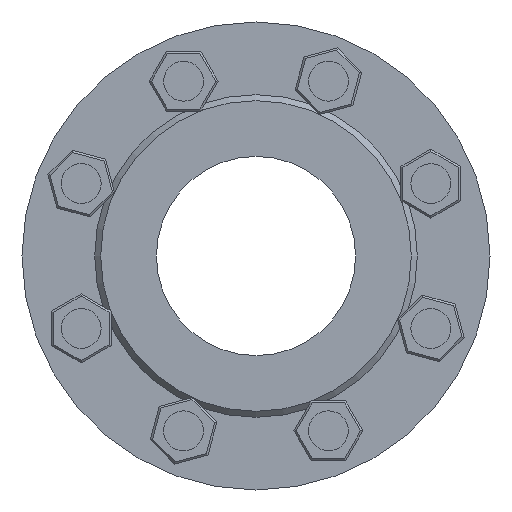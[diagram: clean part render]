
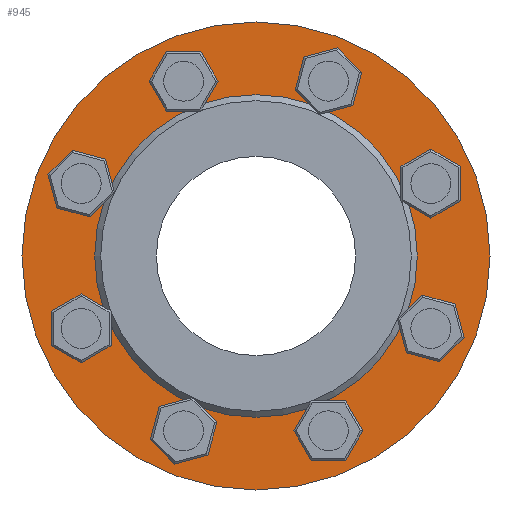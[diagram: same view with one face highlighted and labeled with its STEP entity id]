
A CAD part, left-side view. The second image highlights one B-rep face of the part: STEP entity #945.
In plain terms, the highlighted planar face has unit normal (-1, 0, 0).
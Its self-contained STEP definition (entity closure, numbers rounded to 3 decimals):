
#381 = AXIS2_PLACEMENT_3D ( 'NONE', #11582, #11704, #14217 ) ;
#495 = EDGE_LOOP ( 'NONE', ( #14276 ) ) ;
#606 = DIRECTION ( 'NONE',  ( -1., 0., 0. ) ) ;
#760 = AXIS2_PLACEMENT_3D ( 'NONE', #903, #2397, #10029 ) ;
#900 = FACE_BOUND ( 'NONE', #24164, .T. ) ;
#903 = CARTESIAN_POINT ( 'NONE',  ( 3., -87.769, 36.355 ) ) ;
#910 = VERTEX_POINT ( 'NONE', #23817 ) ;
#945 = ADVANCED_FACE ( 'NONE', ( #10152, #8652, #14166, #12273, #10395, #19664, #18040, #2522, #900, #17789 ), #23547, .F. ) ;
#984 = EDGE_LOOP ( 'NONE', ( #3372 ) ) ;
#1131 = EDGE_CURVE ( 'NONE', #11425, #11425, #2301, .T. ) ;
#1328 = EDGE_LOOP ( 'NONE', ( #5760 ) ) ;
#2149 = AXIS2_PLACEMENT_3D ( 'NONE', #3470, #16367, #12728 ) ;
#2301 = CIRCLE ( 'NONE', #16302, 10. ) ;
#2397 = DIRECTION ( 'NONE',  ( -1., 0., 0. ) ) ;
#2449 = CARTESIAN_POINT ( 'NONE',  ( 3., 0., 0. ) ) ;
#2522 = FACE_BOUND ( 'NONE', #16962, .T. ) ;
#2649 = DIRECTION ( 'NONE',  ( 0., 0., -1. ) ) ;
#2780 = CIRCLE ( 'NONE', #381, 81. ) ;
#2842 = CIRCLE ( 'NONE', #12817, 10. ) ;
#2965 = EDGE_CURVE ( 'NONE', #14178, #14178, #5508, .T. ) ;
#3372 = ORIENTED_EDGE ( 'NONE', *, *, #16997, .F. ) ;
#3470 = CARTESIAN_POINT ( 'NONE',  ( 3., -87.769, -36.355 ) ) ;
#3612 = CARTESIAN_POINT ( 'NONE',  ( 3., 36.355, -87.769 ) ) ;
#4431 = EDGE_CURVE ( 'NONE', #19919, #19919, #2780, .T. ) ;
#4470 = CARTESIAN_POINT ( 'NONE',  ( 3., 36.355, -97.769 ) ) ;
#5085 = VERTEX_POINT ( 'NONE', #16357 ) ;
#5087 = EDGE_CURVE ( 'NONE', #910, #910, #11988, .T. ) ;
#5508 = CIRCLE ( 'NONE', #21914, 10. ) ;
#5699 = DIRECTION ( 'NONE',  ( -1., 0., 0. ) ) ;
#5760 = ORIENTED_EDGE ( 'NONE', *, *, #12244, .T. ) ;
#6345 = VERTEX_POINT ( 'NONE', #21606 ) ;
#6780 = CARTESIAN_POINT ( 'NONE',  ( 3., -36.355, -97.769 ) ) ;
#7005 = DIRECTION ( 'NONE',  ( -1., 0., 0. ) ) ;
#8006 = CARTESIAN_POINT ( 'NONE',  ( 3., 87.769, -36.355 ) ) ;
#8127 = AXIS2_PLACEMENT_3D ( 'NONE', #17747, #606, #23638 ) ;
#8446 = ORIENTED_EDGE ( 'NONE', *, *, #2965, .F. ) ;
#8652 = FACE_BOUND ( 'NONE', #495, .T. ) ;
#8721 = CARTESIAN_POINT ( 'NONE',  ( 3., -87.769, -46.355 ) ) ;
#8959 = CIRCLE ( 'NONE', #18946, 117.5 ) ;
#10029 = DIRECTION ( 'NONE',  ( 0., 0., -1. ) ) ;
#10081 = DIRECTION ( 'NONE',  ( -1., 0., 0. ) ) ;
#10152 = FACE_BOUND ( 'NONE', #984, .T. ) ;
#10395 = FACE_BOUND ( 'NONE', #15842, .T. ) ;
#10426 = EDGE_CURVE ( 'NONE', #11393, #11393, #24535, .T. ) ;
#11393 = VERTEX_POINT ( 'NONE', #4470 ) ;
#11425 = VERTEX_POINT ( 'NONE', #17184 ) ;
#11515 = EDGE_LOOP ( 'NONE', ( #24246 ) ) ;
#11582 = CARTESIAN_POINT ( 'NONE',  ( 3., 0., 0. ) ) ;
#11704 = DIRECTION ( 'NONE',  ( -1., 0., 0. ) ) ;
#11778 = EDGE_CURVE ( 'NONE', #6345, #6345, #13322, .T. ) ;
#11934 = EDGE_CURVE ( 'NONE', #16111, #16111, #12933, .T. ) ;
#11988 = CIRCLE ( 'NONE', #760, 10. ) ;
#12149 = CARTESIAN_POINT ( 'NONE',  ( 3., 81., 0. ) ) ;
#12244 = EDGE_CURVE ( 'NONE', #5085, #5085, #8959, .T. ) ;
#12273 = FACE_BOUND ( 'NONE', #11515, .T. ) ;
#12567 = VERTEX_POINT ( 'NONE', #19950 ) ;
#12728 = DIRECTION ( 'NONE',  ( 0., 0., -1. ) ) ;
#12817 = AXIS2_PLACEMENT_3D ( 'NONE', #14153, #7005, #16515 ) ;
#12933 = CIRCLE ( 'NONE', #2149, 10. ) ;
#12988 = AXIS2_PLACEMENT_3D ( 'NONE', #15221, #5699, #22855 ) ;
#13090 = AXIS2_PLACEMENT_3D ( 'NONE', #12149, #19789, #2649 ) ;
#13275 = ORIENTED_EDGE ( 'NONE', *, *, #5087, .F. ) ;
#13322 = CIRCLE ( 'NONE', #8127, 10. ) ;
#13331 = VERTEX_POINT ( 'NONE', #14976 ) ;
#13636 = DIRECTION ( 'NONE',  ( -1., 0., 0. ) ) ;
#13893 = EDGE_LOOP ( 'NONE', ( #23058 ) ) ;
#14153 = CARTESIAN_POINT ( 'NONE',  ( 3., 36.355, 87.769 ) ) ;
#14166 = FACE_BOUND ( 'NONE', #17751, .T. ) ;
#14178 = VERTEX_POINT ( 'NONE', #6780 ) ;
#14217 = DIRECTION ( 'NONE',  ( 0., 0., 1. ) ) ;
#14276 = ORIENTED_EDGE ( 'NONE', *, *, #11778, .F. ) ;
#14336 = ORIENTED_EDGE ( 'NONE', *, *, #4431, .F. ) ;
#14494 = DIRECTION ( 'NONE',  ( -1., 0., 0. ) ) ;
#14668 = ORIENTED_EDGE ( 'NONE', *, *, #24178, .F. ) ;
#14976 = CARTESIAN_POINT ( 'NONE',  ( 3., 36.355, 77.769 ) ) ;
#15221 = CARTESIAN_POINT ( 'NONE',  ( 3., 87.769, 36.355 ) ) ;
#15842 = EDGE_LOOP ( 'NONE', ( #8446 ) ) ;
#16111 = VERTEX_POINT ( 'NONE', #8721 ) ;
#16302 = AXIS2_PLACEMENT_3D ( 'NONE', #8006, #13636, #17514 ) ;
#16357 = CARTESIAN_POINT ( 'NONE',  ( 3., 0., 117.5 ) ) ;
#16367 = DIRECTION ( 'NONE',  ( -1., 0., 0. ) ) ;
#16375 = EDGE_LOOP ( 'NONE', ( #17968 ) ) ;
#16515 = DIRECTION ( 'NONE',  ( 0., 0., -1. ) ) ;
#16554 = AXIS2_PLACEMENT_3D ( 'NONE', #3612, #23019, #21243 ) ;
#16613 = DIRECTION ( 'NONE',  ( 0., 0., -1. ) ) ;
#16962 = EDGE_LOOP ( 'NONE', ( #14668 ) ) ;
#16997 = EDGE_CURVE ( 'NONE', #13331, #13331, #2842, .T. ) ;
#17184 = CARTESIAN_POINT ( 'NONE',  ( 3., 87.769, -46.355 ) ) ;
#17514 = DIRECTION ( 'NONE',  ( 0., 0., -1. ) ) ;
#17713 = DIRECTION ( 'NONE',  ( 0., 0., 1. ) ) ;
#17747 = CARTESIAN_POINT ( 'NONE',  ( 3., -36.355, 87.769 ) ) ;
#17751 = EDGE_LOOP ( 'NONE', ( #13275 ) ) ;
#17789 = FACE_OUTER_BOUND ( 'NONE', #1328, .T. ) ;
#17968 = ORIENTED_EDGE ( 'NONE', *, *, #1131, .F. ) ;
#18040 = FACE_BOUND ( 'NONE', #16375, .T. ) ;
#18946 = AXIS2_PLACEMENT_3D ( 'NONE', #2449, #10081, #17713 ) ;
#19664 = FACE_BOUND ( 'NONE', #13893, .T. ) ;
#19789 = DIRECTION ( 'NONE',  ( 1., 0., 0. ) ) ;
#19919 = VERTEX_POINT ( 'NONE', #23559 ) ;
#19950 = CARTESIAN_POINT ( 'NONE',  ( 3., 87.769, 26.355 ) ) ;
#20613 = CARTESIAN_POINT ( 'NONE',  ( 3., -36.355, -87.769 ) ) ;
#21243 = DIRECTION ( 'NONE',  ( 0., 0., -1. ) ) ;
#21606 = CARTESIAN_POINT ( 'NONE',  ( 3., -36.355, 77.769 ) ) ;
#21914 = AXIS2_PLACEMENT_3D ( 'NONE', #20613, #14494, #16613 ) ;
#22606 = CIRCLE ( 'NONE', #12988, 10. ) ;
#22855 = DIRECTION ( 'NONE',  ( 0., 0., -1. ) ) ;
#23019 = DIRECTION ( 'NONE',  ( -1., 0., 0. ) ) ;
#23058 = ORIENTED_EDGE ( 'NONE', *, *, #10426, .F. ) ;
#23547 = PLANE ( 'NONE',  #13090 ) ;
#23559 = CARTESIAN_POINT ( 'NONE',  ( 3., 0., 81. ) ) ;
#23638 = DIRECTION ( 'NONE',  ( 0., 0., -1. ) ) ;
#23817 = CARTESIAN_POINT ( 'NONE',  ( 3., -87.769, 26.355 ) ) ;
#24164 = EDGE_LOOP ( 'NONE', ( #14336 ) ) ;
#24178 = EDGE_CURVE ( 'NONE', #12567, #12567, #22606, .T. ) ;
#24246 = ORIENTED_EDGE ( 'NONE', *, *, #11934, .F. ) ;
#24535 = CIRCLE ( 'NONE', #16554, 10. ) ;
